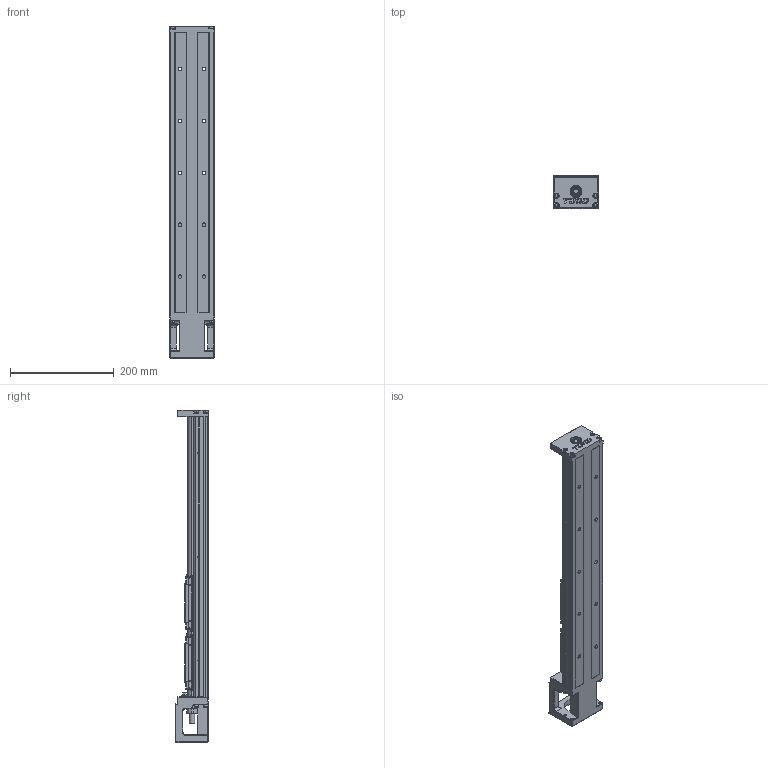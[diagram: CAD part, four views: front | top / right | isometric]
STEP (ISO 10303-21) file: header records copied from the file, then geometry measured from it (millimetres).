
FILE_DESCRIPTION (( 'STEP AP214' ), '1' );
FILE_NAME ('7.0110 KT8610C-540A2-F0.STEP', '2026-03-17T11:47:50', ( '' ), ( '' ), 'SwSTEP 2.0', 'SolidWorks 2025', '' );
FILE_SCHEMA (( 'AUTOMOTIVE_DESIGN' ));
Length unit declared in the file: millimetre
Products named in the file (3): KT86-A1; 7.0110 KT8610C-540A2-F0; KT86-K0_KKR86-ZT-P-540
Assembly tree (3 placements, depth 2):
  7.0110 KT8610C-540A2-F0
    KT86-K0_KKR86-ZT-P-540
    KT86-A1  x2
Bounding box: 86 x 64 x 640.2 mm (x, y, z)
Volume: 1405001.3 mm3; surface area: 347856.4 mm2
Topology: 35 solids, 35 shells, 1968 faces, 5165 edges, 3269 vertices
Faces by surface type: plane 998, cylinder 638, cone 228, torus 61, sphere 26, bspline 17
Entity records: 54761 total; most frequent: CARTESIAN_POINT 9208, DIRECTION 6834, ORIENTED_EDGE 6658, EDGE_CURVE 3329, AXIS2_PLACEMENT_3D 2400, VERTEX_POINT 2133, VECTOR 2034, LINE 2034
